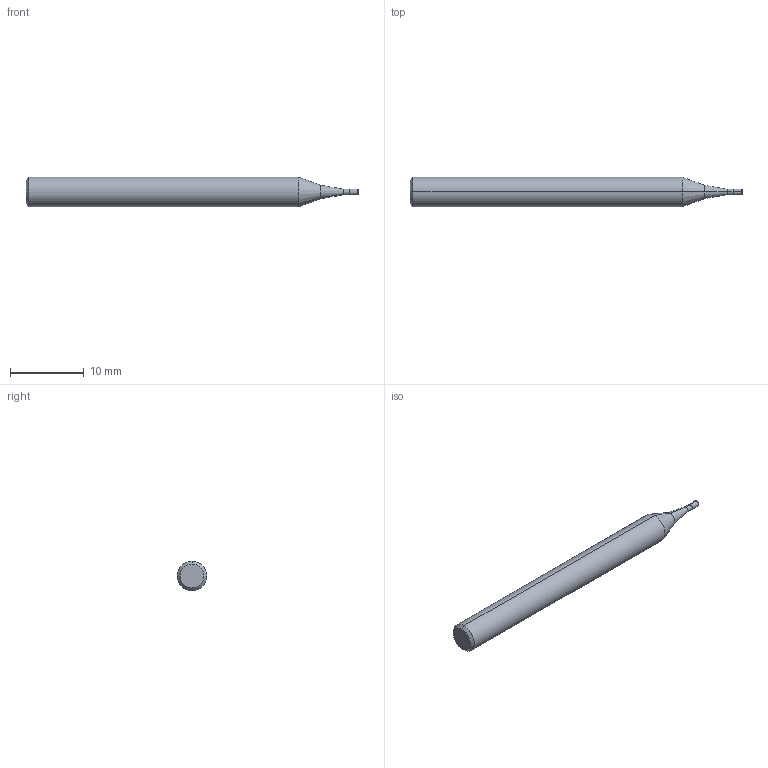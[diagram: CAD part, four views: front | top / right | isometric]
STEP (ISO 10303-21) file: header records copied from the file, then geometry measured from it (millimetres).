
FILE_DESCRIPTION (( 'STEP AP214' ), '1' );
FILE_NAME ('SEME6100800502E.STEP', '2018-04-09T08:57:06', ( '' ), ( '' ), 'SwSTEP 2.0', 'SolidWorks 2014', '' );
FILE_SCHEMA (( 'AUTOMOTIVE_DESIGN' ));
Length unit declared in the file: millimetre
Products named in the file (1): SEME6100800502E
Bounding box: 45 x 4 x 4 mm (x, y, z)
Volume: 489.5 mm3; surface area: 521.8 mm2
Topology: 2 solids, 2 shells, 18 faces, 32 edges, 18 vertices
Faces by surface type: cylinder 6, cone 6, plane 4, torus 2
Entity records: 479 total; most frequent: DIRECTION 90, CARTESIAN_POINT 69, ORIENTED_EDGE 64, AXIS2_PLACEMENT_3D 39, EDGE_CURVE 32, CIRCLE 20, VERTEX_POINT 18, EDGE_LOOP 18
